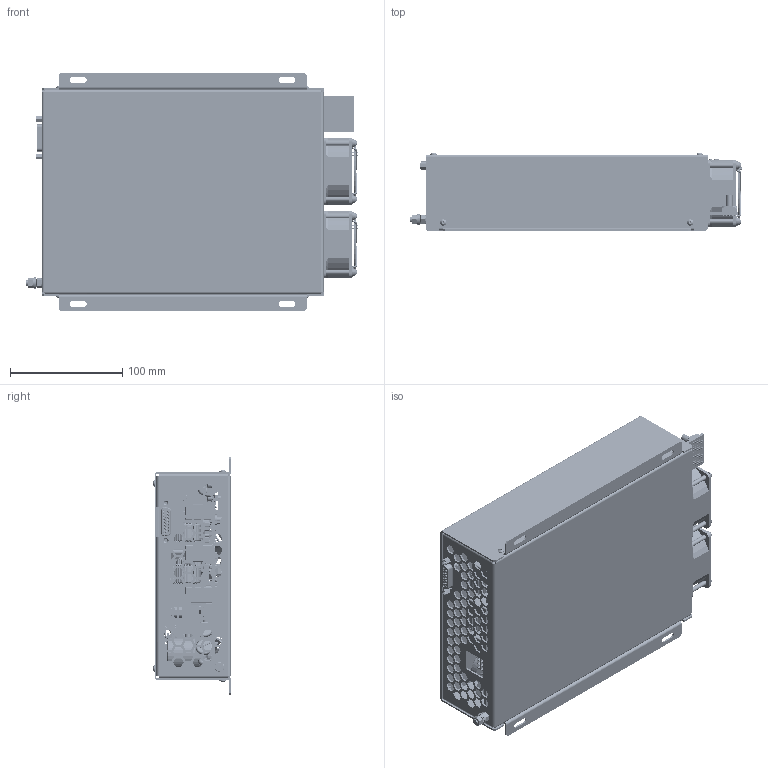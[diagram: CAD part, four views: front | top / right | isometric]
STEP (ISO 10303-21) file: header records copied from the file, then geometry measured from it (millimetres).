
FILE_DESCRIPTION (( 'STEP AP214' ), '1' );
FILE_NAME ('474.00.00.000-A01_LDD-1500.STEP', '2024-01-22T15:48:39', ( '' ), ( '' ), 'SwSTEP 2.0', 'SolidWorks 2018', '' );
FILE_SCHEMA (( 'AUTOMOTIVE_DESIGN' ));
Length unit declared in the file: millimetre
Products named in the file (29): DB-15F; Øïèëüêà M5x16; 妈眚 󉱴 DIN912 (2018); 鎔艜 M3x8 ISO 7380 (2018); ﾘ琺矜 ﾌ3 DIN127 (2018); Nut DIN 934_M3; Øåñòèãðàííàÿ ñòîéêà SCR-10_M3x5; Washer DIN 127_M3; Washer DIN 125_M3; 妈眚 󉱲 DIN7991; ﾘ琺矜 ﾌ5 DIN127; 扻斀錼膷 SCR-10_CA-0230; 404.00.00.002-01 Êðûøêà_-00; FAN 60õ60õ25; Âòóëêà ðåçüá. íåïîëíîïðîõ. BSO-M3-25 ZI; ﾘ琺矜 ﾌ3 DIN125 (2018); Ãàéêà Ì5 DIN934; LDDP24 RevE; Âòóëêà ðåçüá. íåïîëíîïðîõ. BSO-M3-14 ZI (2018); Øïèëüêà M5x18; 474.00.01.001-A01_扻豵鵨_-00; Ðåøåòêà 60õ60; 妈眚 󉱲 ISO7380 (2018); 404.00.00.003-02 赶鎀鍧_-00; 474.00.00.000-A01_LDD-1500; 474.00.01.000-A01_Êîðïóñ â ñáîðå; 404.00.02.000 Óãîëîê â ñáîðå; Ãàéêà CN clinch nut M3 (2018); ﾘ琺矜 ﾌ5 DIN125
Assembly tree (102 placements, depth 3):
  474.00.00.000-A01_LDD-1500
    474.00.01.000-A01_Êîðïóñ â ñáîðå
      474.00.01.001-A01_扻豵鵨_-00
      Âòóëêà ðåçüá. íåïîëíîïðîõ. BSO-M3-14 ZI (2018)  x6
      Øïèëüêà M5x18
      Øïèëüêà M5x16
      Âòóëêà ðåçüá. íåïîëíîïðîõ. BSO-M3-25 ZI  x8
      Ãàéêà CN clinch nut M3 (2018)  x8
      Ãàéêà Ì5 DIN934  x2
      ﾘ琺矜 ﾌ5 DIN125  x2
      ﾘ琺矜 ﾌ5 DIN127
    404.00.02.000 Óãîëîê â ñáîðå
      404.00.00.003-02 赶鎀鍧_-00
      Ãàéêà CN clinch nut M3 (2018)  x2
    LDDP24 RevE
    404.00.00.002-01 Êðûøêà_-00
    FAN 60õ60õ25  x2
    Ðåøåòêà 60õ60  x2
    DB-15F
    扻斀錼膷 SCR-10_CA-0230  x2
      Øåñòèãðàííàÿ ñòîéêà SCR-10_M3x5
      Washer DIN 125_M3
      Washer DIN 127_M3
      Nut DIN 934_M3
    妈眚 󉱲 DIN7991  x2
    ﾘ琺矜 ﾌ3 DIN125 (2018)  x14
    ﾘ琺矜 ﾌ3 DIN127 (2018)  x14
    鎔艜 M3x8 ISO 7380 (2018)  x8
    妈眚 󉱴 DIN912 (2018)  x6
    妈眚 󉱲 ISO7380 (2018)  x8
    ﾘ琺矜 ﾌ5 DIN127
    Ãàéêà Ì5 DIN934
Bounding box: 295.64 x 69.65 x 212.5 mm (x, y, z)
Volume: 319034.7 mm3; surface area: 649063.8 mm2
Topology: 103 solids, 1071 shells, 9865 faces, 35083 edges, 25996 vertices
Faces by surface type: plane 4811, cylinder 3514, torus 662, bspline 482, cone 364, sphere 32
Entity records: 426004 total; most frequent: CARTESIAN_POINT 123142, DIRECTION 49728, ORIENTED_EDGE 45233, EDGE_CURVE 29615, VERTEX_POINT 22572, LINE 17226, VECTOR 17226, AXIS2_PLACEMENT_3D 16251
